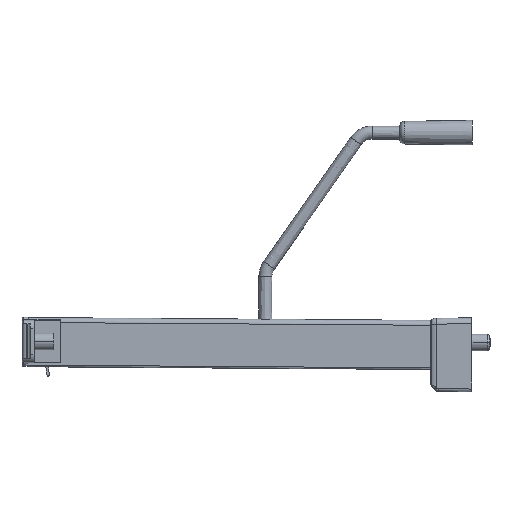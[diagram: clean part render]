
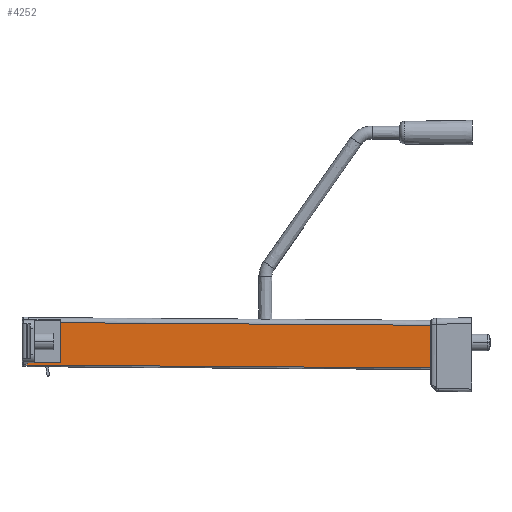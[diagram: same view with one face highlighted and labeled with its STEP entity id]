
A CAD part, left-side view. The second image highlights one B-rep face of the part: STEP entity #4252.
In plain terms, the highlighted planar face has unit normal (-1, 0, 0).
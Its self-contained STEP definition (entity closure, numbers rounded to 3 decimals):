
#90 = PLANE ( 'NONE',  #3019 ) ;
#91 = CARTESIAN_POINT ( 'NONE',  ( -5.25, 304.281, -13.567 ) ) ;
#92 = DIRECTION ( 'NONE',  ( 1., 0., 0. ) ) ;
#93 = DIRECTION ( 'NONE',  ( 0., 0., 1. ) ) ;
#1102 = CARTESIAN_POINT ( 'NONE',  ( -5.25, 304.101, 12.432 ) ) ;
#1103 = DIRECTION ( 'NONE',  ( 0., -1., -0.007 ) ) ;
#1104 = CARTESIAN_POINT ( 'NONE',  ( -5.25, 25., 15. ) ) ;
#1105 = DIRECTION ( 'NONE',  ( 0., 0., 1. ) ) ;
#1106 = CARTESIAN_POINT ( 'NONE',  ( -5.25, 304.281, -13.567 ) ) ;
#1107 = DIRECTION ( 'NONE',  ( 0., -1., -0.007 ) ) ;
#1108 = CARTESIAN_POINT ( 'NONE',  ( -5.25, 271.4, -13.567 ) ) ;
#1109 = DIRECTION ( 'NONE',  ( 0., 0., 1. ) ) ;
#1110 = CARTESIAN_POINT ( 'NONE',  ( -5.25, 250.9, -12.42 ) ) ;
#1111 = DIRECTION ( 'NONE',  ( 0., 1., 0. ) ) ;
#1112 = CARTESIAN_POINT ( 'NONE',  ( -5.25, 250.9, 13.6 ) ) ;
#1113 = DIRECTION ( 'NONE',  ( 0., 0., -1. ) ) ;
#1156 = CARTESIAN_POINT ( 'NONE',  ( -5.25, 25., 10.501 ) ) ;
#1161 = CARTESIAN_POINT ( 'NONE',  ( -5.25, 250.9, -12.42 ) ) ;
#1626 = CARTESIAN_POINT ( 'NONE',  ( -5.25, 25., -15.5 ) ) ;
#1628 = CARTESIAN_POINT ( 'NONE',  ( -5.25, 250.9, 12.064 ) ) ;
#1635 = CARTESIAN_POINT ( 'NONE',  ( -5.25, 271.4, -13.795 ) ) ;
#1729 = ORIENTED_EDGE ( 'NONE', *, *, #2753, .T. ) ;
#1731 = ORIENTED_EDGE ( 'NONE', *, *, #2752, .T. ) ;
#1733 = ORIENTED_EDGE ( 'NONE', *, *, #2751, .F. ) ;
#1735 = ORIENTED_EDGE ( 'NONE', *, *, #2750, .T. ) ;
#1737 = ORIENTED_EDGE ( 'NONE', *, *, #2749, .T. ) ;
#1739 = ORIENTED_EDGE ( 'NONE', *, *, #2748, .F. ) ;
#1918 = VERTEX_POINT ( 'NONE', #1626 ) ;
#1920 = VERTEX_POINT ( 'NONE', #1628 ) ;
#1927 = VERTEX_POINT ( 'NONE', #1635 ) ;
#2167 = VERTEX_POINT ( 'NONE', #1156 ) ;
#2172 = VERTEX_POINT ( 'NONE', #1161 ) ;
#2195 = CARTESIAN_POINT ( 'NONE',  ( -5.25, 271.4, -12.42 ) ) ;
#2418 = VERTEX_POINT ( 'NONE', #2195 ) ;
#2748 = EDGE_CURVE ( 'NONE', #1920, #2167, #3453, .T. ) ;
#2749 = EDGE_CURVE ( 'NONE', #1918, #2167, #3455, .T. ) ;
#2750 = EDGE_CURVE ( 'NONE', #1927, #1918, #3457, .T. ) ;
#2751 = EDGE_CURVE ( 'NONE', #1927, #2418, #3459, .T. ) ;
#2752 = EDGE_CURVE ( 'NONE', #2172, #2418, #3461, .T. ) ;
#2753 = EDGE_CURVE ( 'NONE', #1920, #2172, #3463, .T. ) ;
#3019 = AXIS2_PLACEMENT_3D ( 'NONE', #91, #92, #93 ) ;
#3453 = LINE ( 'NONE', #1102, #3454 ) ;
#3454 = VECTOR ( 'NONE', #1103, 1000. ) ;
#3455 = LINE ( 'NONE', #1104, #3456 ) ;
#3456 = VECTOR ( 'NONE', #1105, 1000. ) ;
#3457 = LINE ( 'NONE', #1106, #3458 ) ;
#3458 = VECTOR ( 'NONE', #1107, 1000. ) ;
#3459 = LINE ( 'NONE', #1108, #3460 ) ;
#3460 = VECTOR ( 'NONE', #1109, 1000. ) ;
#3461 = LINE ( 'NONE', #1110, #3462 ) ;
#3462 = VECTOR ( 'NONE', #1111, 1000. ) ;
#3463 = LINE ( 'NONE', #1112, #3464 ) ;
#3464 = VECTOR ( 'NONE', #1113, 1000. ) ;
#3847 = FACE_OUTER_BOUND ( 'NONE', #5206, .T. ) ;
#4252 = ADVANCED_FACE ( 'NONE', ( #3847 ), #90, .F. ) ;
#5206 = EDGE_LOOP ( 'NONE', ( #1729, #1731, #1733, #1735, #1737, #1739 ) ) ;
